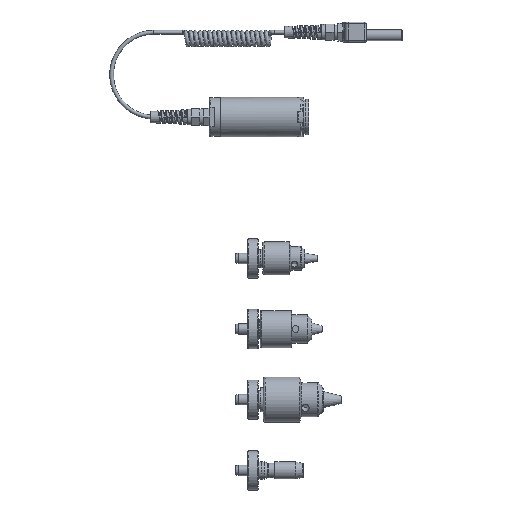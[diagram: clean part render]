
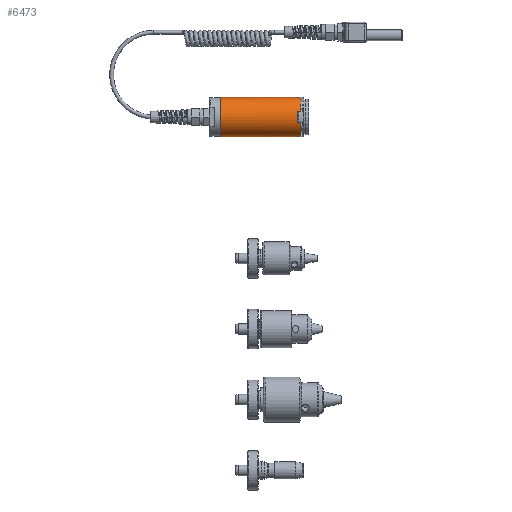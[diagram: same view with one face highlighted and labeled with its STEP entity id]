
A CAD part, top view. The second image highlights one B-rep face of the part: STEP entity #6473.
In plain terms, the highlighted cylindrical face has radius 17.653 mm (diameter 35.306 mm), a full revolution.
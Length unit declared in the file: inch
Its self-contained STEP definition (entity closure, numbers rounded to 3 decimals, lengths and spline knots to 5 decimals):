
#4502=CARTESIAN_POINT('',(51.43719,17.87666,15.26894));
#4503=VERTEX_POINT('',#4502);
#4510=CARTESIAN_POINT('',(51.43719,17.87666,15.68307));
#4511=VERTEX_POINT('',#4510);
#4512=CARTESIAN_POINT('',(51.43719,17.21322,15.47601));
#4513=DIRECTION('',(-1.0,0.0,0.0));
#4514=DIRECTION('',(0.0,0.0,-1.0));
#4515=AXIS2_PLACEMENT_3D('',#4512,#4513,#4514);
#4516=CIRCLE('',#4515,0.695);
#4517=EDGE_CURVE('',#4511,#4503,#4516,.T.);
#4536=CARTESIAN_POINT('',(51.43719,17.42029,16.13944));
#4537=VERTEX_POINT('',#4536);
#4544=CARTESIAN_POINT('',(51.43719,17.00616,16.13944));
#4545=VERTEX_POINT('',#4544);
#4546=CARTESIAN_POINT('',(51.43719,17.21322,15.47601));
#4547=DIRECTION('',(-1.0,0.0,0.0));
#4548=DIRECTION('',(0.0,0.0,-1.0));
#4549=AXIS2_PLACEMENT_3D('',#4546,#4547,#4548);
#4550=CIRCLE('',#4549,0.695);
#4551=EDGE_CURVE('',#4545,#4537,#4550,.T.);
#4570=CARTESIAN_POINT('',(51.43719,16.54979,15.68307));
#4571=VERTEX_POINT('',#4570);
#4578=CARTESIAN_POINT('',(51.43719,16.54979,15.26894));
#4579=VERTEX_POINT('',#4578);
#4580=CARTESIAN_POINT('',(51.43719,17.21322,15.47601));
#4581=DIRECTION('',(-1.0,0.0,0.0));
#4582=DIRECTION('',(0.0,0.0,-1.0));
#4583=AXIS2_PLACEMENT_3D('',#4580,#4581,#4582);
#4584=CIRCLE('',#4583,0.695);
#4585=EDGE_CURVE('',#4579,#4571,#4584,.T.);
#4604=CARTESIAN_POINT('',(51.43719,17.00616,14.81257));
#4605=VERTEX_POINT('',#4604);
#4612=CARTESIAN_POINT('',(51.43719,17.42029,14.81257));
#4613=VERTEX_POINT('',#4612);
#4614=CARTESIAN_POINT('',(51.43719,17.21322,15.47601));
#4615=DIRECTION('',(-1.0,0.0,0.0));
#4616=DIRECTION('',(0.0,0.0,-1.0));
#4617=AXIS2_PLACEMENT_3D('',#4614,#4615,#4616);
#4618=CIRCLE('',#4617,0.695);
#4619=EDGE_CURVE('',#4613,#4605,#4618,.T.);
#6154=CARTESIAN_POINT('',(51.56719,17.00616,16.13944));
#6155=VERTEX_POINT('',#6154);
#6156=CARTESIAN_POINT('',(51.56719,17.00616,16.13944));
#6157=DIRECTION('',(-1.0,0.0,0.0));
#6158=VECTOR('',#6157,0.13);
#6159=LINE('',#6156,#6158);
#6160=EDGE_CURVE('',#6155,#4545,#6159,.T.);
#6178=CARTESIAN_POINT('',(51.56719,17.87666,15.68307));
#6179=VERTEX_POINT('',#6178);
#6180=CARTESIAN_POINT('',(51.56719,17.87666,15.68307));
#6181=DIRECTION('',(-1.0,0.0,0.0));
#6182=VECTOR('',#6181,0.13);
#6183=LINE('',#6180,#6182);
#6184=EDGE_CURVE('',#6179,#4511,#6183,.T.);
#6202=CARTESIAN_POINT('',(51.56719,17.42029,14.81257));
#6203=VERTEX_POINT('',#6202);
#6204=CARTESIAN_POINT('',(51.56719,17.42029,14.81257));
#6205=DIRECTION('',(-1.0,0.0,0.0));
#6206=VECTOR('',#6205,0.13);
#6207=LINE('',#6204,#6206);
#6208=EDGE_CURVE('',#6203,#4613,#6207,.T.);
#6226=CARTESIAN_POINT('',(51.56719,16.54979,15.26894));
#6227=VERTEX_POINT('',#6226);
#6228=CARTESIAN_POINT('',(51.56719,16.54979,15.26894));
#6229=DIRECTION('',(-1.0,0.0,0.0));
#6230=VECTOR('',#6229,0.13);
#6231=LINE('',#6228,#6230);
#6232=EDGE_CURVE('',#6227,#4579,#6231,.T.);
#6249=CARTESIAN_POINT('',(51.56719,17.42029,16.13944));
#6250=VERTEX_POINT('',#6249);
#6257=CARTESIAN_POINT('',(51.43719,17.42029,16.13944));
#6258=DIRECTION('',(1.0,0.0,0.0));
#6259=VECTOR('',#6258,0.13);
#6260=LINE('',#6257,#6259);
#6261=EDGE_CURVE('',#4537,#6250,#6260,.T.);
#6273=CARTESIAN_POINT('',(51.56719,17.87666,15.26894));
#6274=VERTEX_POINT('',#6273);
#6281=CARTESIAN_POINT('',(51.43719,17.87666,15.26894));
#6282=DIRECTION('',(1.0,0.0,0.0));
#6283=VECTOR('',#6282,0.13);
#6284=LINE('',#6281,#6283);
#6285=EDGE_CURVE('',#4503,#6274,#6284,.T.);
#6297=CARTESIAN_POINT('',(51.56719,17.00616,14.81257));
#6298=VERTEX_POINT('',#6297);
#6305=CARTESIAN_POINT('',(51.43719,17.00616,14.81257));
#6306=DIRECTION('',(1.0,0.0,0.0));
#6307=VECTOR('',#6306,0.13);
#6308=LINE('',#6305,#6307);
#6309=EDGE_CURVE('',#4605,#6298,#6308,.T.);
#6321=CARTESIAN_POINT('',(51.56719,16.54979,15.68307));
#6322=VERTEX_POINT('',#6321);
#6329=CARTESIAN_POINT('',(51.43719,16.54979,15.68307));
#6330=DIRECTION('',(1.0,0.0,0.0));
#6331=VECTOR('',#6330,0.13);
#6332=LINE('',#6329,#6331);
#6333=EDGE_CURVE('',#4571,#6322,#6332,.T.);
#6345=CARTESIAN_POINT('',(51.56719,17.21322,15.47601));
#6346=DIRECTION('',(-1.0,0.0,0.0));
#6347=DIRECTION('',(0.0,0.0,-1.0));
#6348=AXIS2_PLACEMENT_3D('',#6345,#6346,#6347);
#6349=CIRCLE('',#6348,0.695);
#6350=EDGE_CURVE('',#6322,#6155,#6349,.T.);
#6365=CARTESIAN_POINT('',(51.56719,17.21322,15.47601));
#6366=DIRECTION('',(-1.0,0.0,0.0));
#6367=DIRECTION('',(0.0,0.0,-1.0));
#6368=AXIS2_PLACEMENT_3D('',#6365,#6366,#6367);
#6369=CIRCLE('',#6368,0.695);
#6370=EDGE_CURVE('',#6298,#6227,#6369,.T.);
#6383=CARTESIAN_POINT('',(51.56719,17.21322,15.47601));
#6384=DIRECTION('',(-1.0,0.0,0.0));
#6385=DIRECTION('',(0.0,0.0,-1.0));
#6386=AXIS2_PLACEMENT_3D('',#6383,#6384,#6385);
#6387=CIRCLE('',#6386,0.695);
#6388=EDGE_CURVE('',#6274,#6203,#6387,.T.);
#6426=CARTESIAN_POINT('',(48.73219,17.21322,16.17101));
#6427=VERTEX_POINT('',#6426);
#6428=CARTESIAN_POINT('',(48.73219,17.21322,15.47601));
#6429=DIRECTION('',(1.0,0.0,0.0));
#6430=DIRECTION('',(0.0,0.0,-1.0));
#6431=AXIS2_PLACEMENT_3D('',#6428,#6429,#6430);
#6432=CIRCLE('',#6431,0.695);
#6433=EDGE_CURVE('',#6427,#6427,#6432,.T.);
#6441=CARTESIAN_POINT('',(48.69219,17.21322,15.47601));
#6442=DIRECTION('',(1.0,0.,0.));
#6443=DIRECTION('',(0.0,0.0,-1.0));
#6444=AXIS2_PLACEMENT_3D('',#6441,#6442,#6443);
#6445=CYLINDRICAL_SURFACE('',#6444,0.695);
#6446=ORIENTED_EDGE('',*,*,#6261,.T.);
#6447=CARTESIAN_POINT('',(51.56719,17.21322,15.47601));
#6448=DIRECTION('',(-1.0,0.0,0.0));
#6449=DIRECTION('',(0.0,0.0,-1.0));
#6450=AXIS2_PLACEMENT_3D('',#6447,#6448,#6449);
#6451=CIRCLE('',#6450,0.695);
#6452=EDGE_CURVE('',#6250,#6179,#6451,.T.);
#6453=ORIENTED_EDGE('',*,*,#6452,.T.);
#6454=ORIENTED_EDGE('',*,*,#6184,.T.);
#6455=ORIENTED_EDGE('',*,*,#4517,.T.);
#6456=ORIENTED_EDGE('',*,*,#6285,.T.);
#6457=ORIENTED_EDGE('',*,*,#6388,.T.);
#6458=ORIENTED_EDGE('',*,*,#6208,.T.);
#6459=ORIENTED_EDGE('',*,*,#4619,.T.);
#6460=ORIENTED_EDGE('',*,*,#6309,.T.);
#6461=ORIENTED_EDGE('',*,*,#6370,.T.);
#6462=ORIENTED_EDGE('',*,*,#6232,.T.);
#6463=ORIENTED_EDGE('',*,*,#4585,.T.);
#6464=ORIENTED_EDGE('',*,*,#6333,.T.);
#6465=ORIENTED_EDGE('',*,*,#6350,.T.);
#6466=ORIENTED_EDGE('',*,*,#6160,.T.);
#6467=ORIENTED_EDGE('',*,*,#4551,.T.);
#6468=EDGE_LOOP('',(#6446,#6453,#6454,#6455,#6456,#6457,#6458,#6459,#6460,#6461,#6462,#6463,#6464,#6465,#6466,#6467));
#6469=FACE_OUTER_BOUND('',#6468,.T.);
#6470=ORIENTED_EDGE('',*,*,#6433,.T.);
#6471=EDGE_LOOP('',(#6470));
#6472=FACE_BOUND('',#6471,.T.);
#6473=ADVANCED_FACE('',(#6469,#6472),#6445,.T.);
